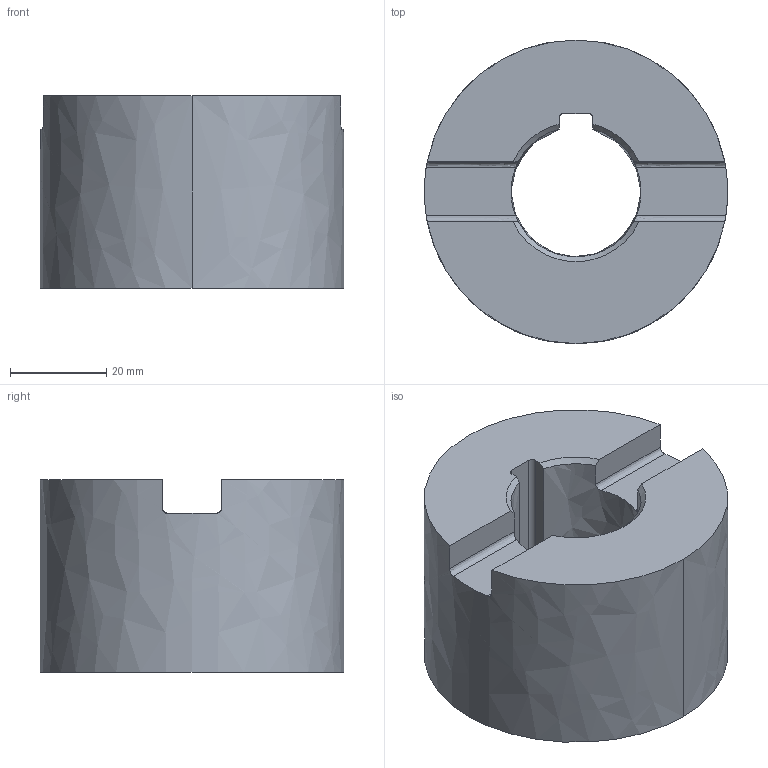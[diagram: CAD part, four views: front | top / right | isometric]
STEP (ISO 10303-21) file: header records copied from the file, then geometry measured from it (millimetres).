
FILE_DESCRIPTION((''),'2;1');
FILE_NAME('DIN4003_82_HEURO','2016-12-15T',('automc'),(''),'PRO/ENGINEER BY PARAMETRIC TECHNOLOGY CORPORATION, 2015280','PRO/ENGINEER BY PARAMETRIC TECHNOLOGY CORPORATION, 2015280','');
FILE_SCHEMA(('AUTOMOTIVE_DESIGN { 1 0 10303 214 1 1 1 1 }'));
Length unit declared in the file: millimetre
Products named in the file (1): DIN4003_82_HEURO
Bounding box: 63 x 63 x 40 mm (x, y, z)
Volume: 86168.3 mm3; surface area: 16729.6 mm2
Topology: 1 solids, 1 shells, 30 faces, 84 edges, 57 vertices
Faces by surface type: bspline 30
Entity records: 1815 total; most frequent: CARTESIAN_POINT 768, ORIENTED_EDGE 164, DIRECTION 123, EDGE_CURVE 82, VERTEX_POINT 54, VECTOR 43, LINE 43, AXIS2_PLACEMENT_3D 40
